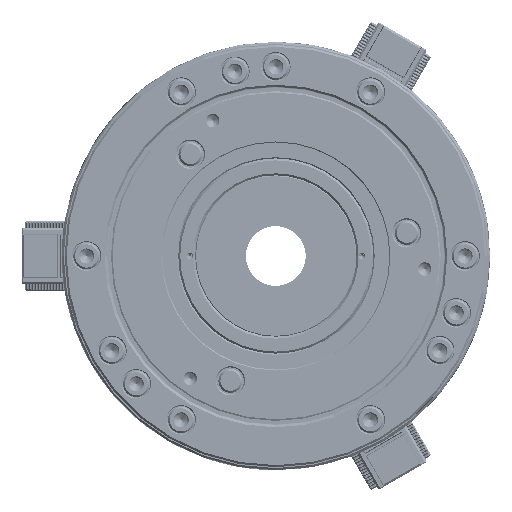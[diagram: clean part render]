
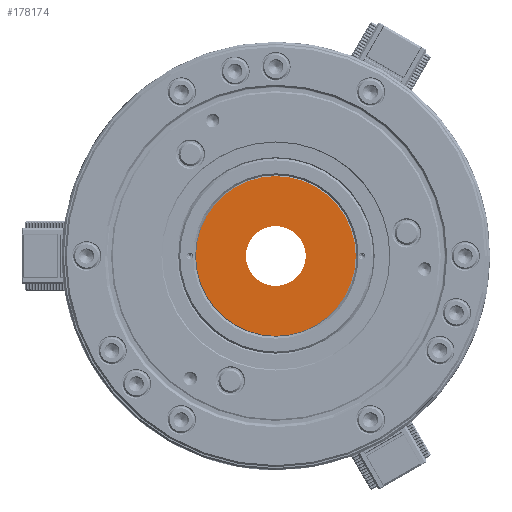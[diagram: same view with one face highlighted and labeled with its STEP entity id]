
A CAD part, left-side view. The second image highlights one B-rep face of the part: STEP entity #178174.
In plain terms, the highlighted planar face has unit normal (-1, 0, 0).
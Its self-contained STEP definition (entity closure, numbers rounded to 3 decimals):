
#24728 = CIRCLE ( 'NONE', #150514, 15. ) ;
#29901 = CARTESIAN_POINT ( 'NONE',  ( -25., 0., 15. ) ) ;
#37431 = DIRECTION ( 'NONE',  ( 0., 0., 1. ) ) ;
#50961 = VERTEX_POINT ( 'NONE', #235159 ) ;
#52927 = DIRECTION ( 'NONE',  ( -1., 0., 0. ) ) ;
#62498 = AXIS2_PLACEMENT_3D ( 'NONE', #190616, #168496, #226293 ) ;
#65088 = AXIS2_PLACEMENT_3D ( 'NONE', #101349, #76885, #208527 ) ;
#69966 = ORIENTED_EDGE ( 'NONE', *, *, #195946, .T. ) ;
#71397 = DIRECTION ( 'NONE',  ( 0., 0., 1. ) ) ;
#76811 = CARTESIAN_POINT ( 'NONE',  ( -25., 0., 0. ) ) ;
#76885 = DIRECTION ( 'NONE',  ( 1., 0., 0. ) ) ;
#78313 = CIRCLE ( 'NONE', #62498, 15. ) ;
#93860 = AXIS2_PLACEMENT_3D ( 'NONE', #143983, #216615, #71397 ) ;
#98934 = FACE_BOUND ( 'NONE', #181052, .T. ) ;
#101349 = CARTESIAN_POINT ( 'NONE',  ( -25., 40.1, 0. ) ) ;
#107148 = VERTEX_POINT ( 'NONE', #194661 ) ;
#110240 = CIRCLE ( 'NONE', #137594, 40.1 ) ;
#122158 = CARTESIAN_POINT ( 'NONE',  ( -25., 0., 0. ) ) ;
#123901 = ORIENTED_EDGE ( 'NONE', *, *, #193614, .F. ) ;
#124554 = EDGE_CURVE ( 'NONE', #107148, #134350, #24728, .T. ) ;
#125658 = VERTEX_POINT ( 'NONE', #153100 ) ;
#134350 = VERTEX_POINT ( 'NONE', #29901 ) ;
#137594 = AXIS2_PLACEMENT_3D ( 'NONE', #122158, #52927, #200655 ) ;
#143983 = CARTESIAN_POINT ( 'NONE',  ( -25., 0., 0. ) ) ;
#150514 = AXIS2_PLACEMENT_3D ( 'NONE', #76811, #155474, #37431 ) ;
#151928 = PLANE ( 'NONE',  #65088 ) ;
#153100 = CARTESIAN_POINT ( 'NONE',  ( -25., 0., 40.1 ) ) ;
#155474 = DIRECTION ( 'NONE',  ( -1., 0., 0. ) ) ;
#157167 = ORIENTED_EDGE ( 'NONE', *, *, #124554, .F. ) ;
#160755 = CIRCLE ( 'NONE', #93860, 40.1 ) ;
#168496 = DIRECTION ( 'NONE',  ( -1., 0., 0. ) ) ;
#178174 = ADVANCED_FACE ( 'NONE', ( #98934, #228175 ), #151928, .F. ) ;
#181052 = EDGE_LOOP ( 'NONE', ( #123901, #157167 ) ) ;
#190616 = CARTESIAN_POINT ( 'NONE',  ( -25., 0., 0. ) ) ;
#193614 = EDGE_CURVE ( 'NONE', #134350, #107148, #78313, .T. ) ;
#194661 = CARTESIAN_POINT ( 'NONE',  ( -25., 0., -15. ) ) ;
#195946 = EDGE_CURVE ( 'NONE', #50961, #125658, #110240, .T. ) ;
#200655 = DIRECTION ( 'NONE',  ( 0., 0., 1. ) ) ;
#208527 = DIRECTION ( 'NONE',  ( 0., 0., -1. ) ) ;
#211478 = EDGE_LOOP ( 'NONE', ( #69966, #212368 ) ) ;
#212368 = ORIENTED_EDGE ( 'NONE', *, *, #222676, .T. ) ;
#216615 = DIRECTION ( 'NONE',  ( -1., 0., 0. ) ) ;
#222676 = EDGE_CURVE ( 'NONE', #125658, #50961, #160755, .T. ) ;
#226293 = DIRECTION ( 'NONE',  ( 0., 0., 1. ) ) ;
#228175 = FACE_OUTER_BOUND ( 'NONE', #211478, .T. ) ;
#235159 = CARTESIAN_POINT ( 'NONE',  ( -25., 0., -40.1 ) ) ;
